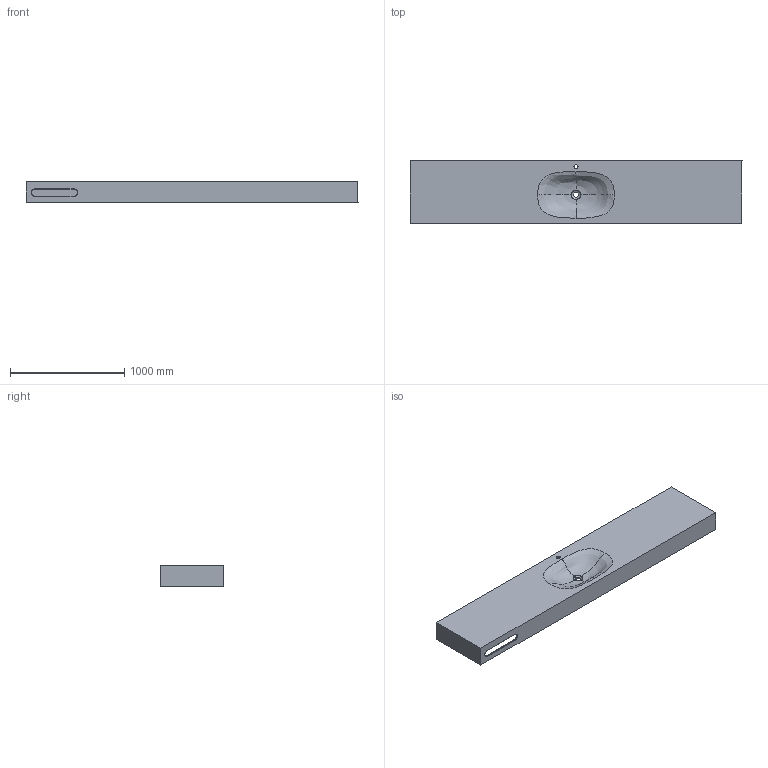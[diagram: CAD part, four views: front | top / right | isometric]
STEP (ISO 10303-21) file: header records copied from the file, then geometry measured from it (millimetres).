
FILE_DESCRIPTION (( 'STEP AP214' ), '1' );
FILE_NAME ('TRINITY-E 2900.STEP', '2024-05-10T09:17:58', ( '' ), ( '' ), 'SwSTEP 2.0', 'SolidWorks 2021', '' );
FILE_SCHEMA (( 'AUTOMOTIVE_DESIGN' ));
Length unit declared in the file: millimetre
Products named in the file (7): CAD-00001810; CAD-00001827_2900; TRINITY-E 2900; CAD-00001811; CAD-00001815_2900; CAD-00001817_2900; CAD-00001812_2900
Assembly tree (12 placements, depth 2):
  TRINITY-E 2900
    CAD-00001827_2900
    CAD-00001811  x2
    CAD-00001812_2900
    CAD-00001817_2900
    CAD-00001815_2900
    CAD-00001810  x6
Bounding box: 2900 x 550 x 180 mm (x, y, z)
Volume: 41427466.6 mm3; surface area: 7430187.6 mm2
Topology: 12 solids, 12 shells, 157 faces, 364 edges, 231 vertices
Faces by surface type: plane 86, cylinder 35, bspline 32, torus 4
Full cylindrical faces by diameter (mm): 11 x16, 35 x1
Entity records: 21847 total; most frequent: CARTESIAN_POINT 19407, ORIENTED_EDGE 428, DIRECTION 390, EDGE_CURVE 214, EDGE_LOOP 156, VERTEX_POINT 142, AXIS2_PLACEMENT_3D 142, FACE_OUTER_BOUND 118
